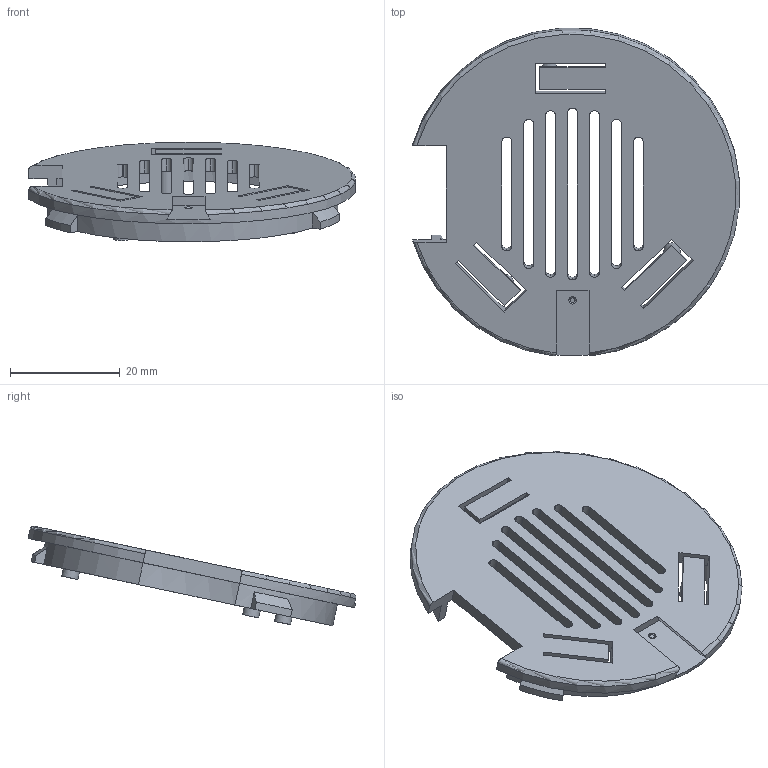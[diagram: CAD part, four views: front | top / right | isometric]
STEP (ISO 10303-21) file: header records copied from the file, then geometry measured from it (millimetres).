
FILE_DESCRIPTION(('Open CASCADE Model'),'2;1');
FILE_NAME('Open CASCADE Shape Model','2026-10-13T21:35:46',('Author'),( 'Open CASCADE'),'Open CASCADE STEP processor 7.9','Open CASCADE 7.9' ,'Unknown');
FILE_SCHEMA(('AUTOMOTIVE_DESIGN { 1 0 10303 214 1 1 1 1 }'));
Length unit declared in the file: millimetre
Products named in the file (1): Open CASCADE STEP translator 7.9 3
Bounding box: 59.54 x 59.79 x 18.17 mm (x, y, z)
Volume: 6740.8 mm3; surface area: 8085.4 mm2
Topology: 1 solids, 1 shells, 120 faces, 342 edges, 228 vertices
Faces by surface type: plane 77, cylinder 37, cone 4, torus 2
Full cylindrical faces by diameter (mm): 3 x3
Entity records: 8652 total; most frequent: CARTESIAN_POINT 1673, DIRECTION 1334, LINE 840, VECTOR 840, ORIENTED_EDGE 684, PCURVE 684, DEFINITIONAL_REPRESENTATION 684, EDGE_CURVE 342
